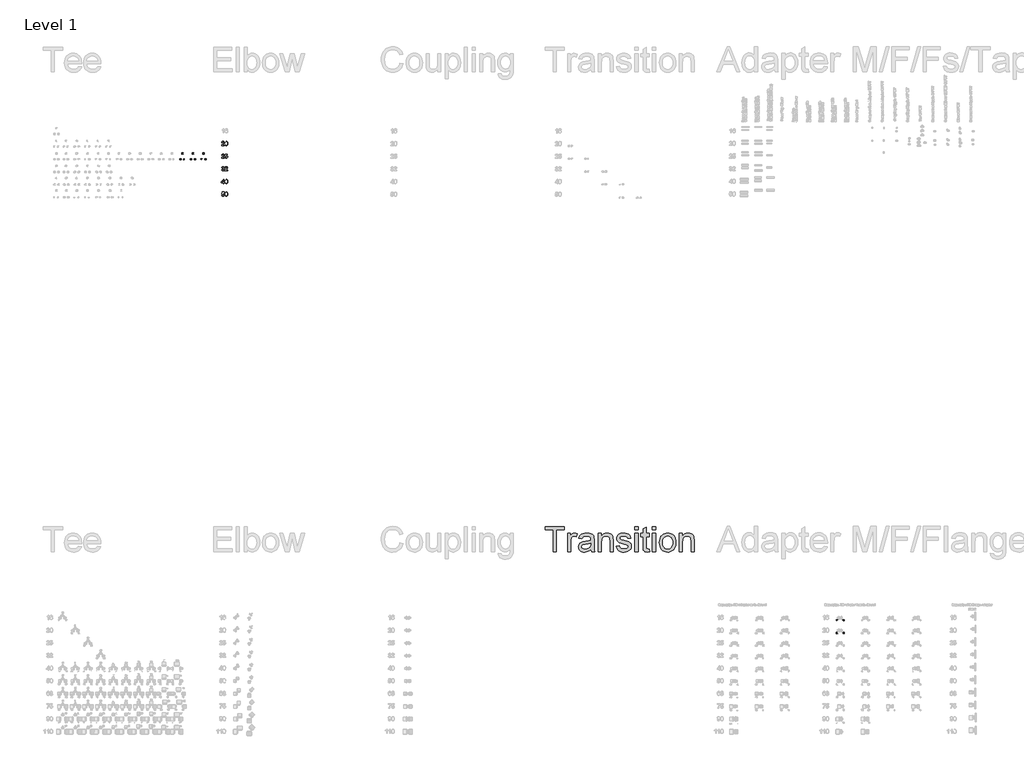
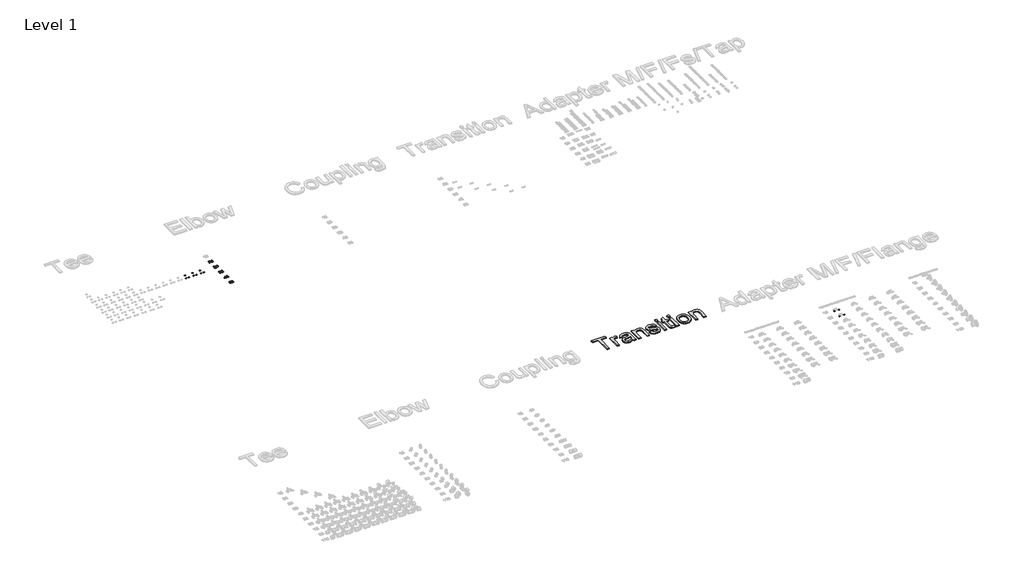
# One storey, part 38 of 58: 19 proxies.
"""IFC4 building model written with IfcOpenShell, lengths in millimetres."""

from ifc_helpers import new_model, si_unit, frame, origin, place, context, project, spatial, polyline, outline, extrude, element, save

model = new_model("IFC4")

# Units and contexts
model_context = context("Model", 3, world=origin())
ifc_project = project(units=[si_unit("LENGTHUNIT", "METRE", prefix="MILLI")], contexts=[model_context])

# Site, building, storey
site = spatial("IfcSite", under=ifc_project)
building = spatial("IfcBuilding", under=site)
storey = spatial("IfcBuildingStorey", under=building, Name="Level 1", Elevation=27.3876384)

# Proxies
placement = place(None, origin())
element("IfcBuildingElementProxy", 1, Name="100mm Arial", ObjectType="100mm Arial", at=placement, inside=storey, context=model_context, shape_type="SweptSolid", body=[
    extrude(outline(polyline([(17097.4706647, 29855.9118651), (17097.4706647, 29843.3548263), (17031.5462111, 29843.3548263), (17032.8951118, 29852.0123159), (17040.5225318, 29865.3419069), (17056.2433558, 29879.8977712), (17077.923868, 29900.817994), (17083.3439961, 29915.0427644), (17078.2304363, 29926.5574709), (17064.8763199, 29931.2540977), (17050.9581178, 29926.6678355), (17045.6728798, 29913.9881694), (17033.115841, 29915.5577992), (17036.1600645, 29927.7040364), (17042.7420865, 29936.5761239), (17052.5185506, 29942.0023833), (17065.1461, 29943.8111365), (17077.86562, 29941.8000482), (17087.6236899, 29935.7667835), (17093.8316986, 29926.7536746), (17095.9010348, 29915.8030539), (17093.6692174, 29903.89594), (17086.2502638, 29891.5841559), (17068.2608343, 29874.3795412), (17053.8153346, 29862.3007491), (17048.1499519, 29855.9118651), (17097.4706647, 29855.9118651)])), frame((0.0, 0.0, 27.3876384), z_axis=(0.0, 0.0, 1.0), x_axis=(1.0, 0.0, 0.0)), (0.0, 0.0, 1.0), 2.0),
    extrude(outline(polyline([(17110.0277034, 29892.773641), (17113.7187861, 29921.6769031), (17124.6816696, 29938.3419575), (17142.9899302, 29943.8111365), (17157.6561591, 29940.5737749), (17167.7851767, 29931.241835), (17173.6712886, 29916.3794024), (17175.952157, 29892.773641), (17172.2978625, 29863.9930062), (17161.3717672, 29847.2911637), (17153.1404076, 29843.1616883), (17142.9899302, 29841.7851965), (17129.9423821, 29844.1764294), (17120.0340937, 29851.3501283), (17112.529301, 29868.3401451), (17110.0277034, 29892.773641)]), holes=[polyline([(17122.5847422, 29892.7981665), (17124.0562702, 29873.045969), (17128.4708541, 29861.614036), (17135.0436791, 29856.1601854), (17142.9899302, 29854.3422352), (17150.9361813, 29856.1663168), (17157.5090063, 29861.6385615), (17161.9235902, 29873.0766258), (17163.3951182, 29892.7981665), (17161.9726412, 29912.1058398), (17157.70521, 29923.6266777), (17151.1446478, 29929.3472427), (17142.8427774, 29931.2540977), (17134.9823655, 29929.5741032), (17128.6670579, 29924.5341199), (17124.1053211, 29912.2959122), (17122.5847422, 29892.7981665)])]), frame((0.0, 0.0, 27.3876384), z_axis=(0.0, 0.0, 1.0), x_axis=(1.0, 0.0, 0.0)), (0.0, 0.0, 1.0), 2.0),
])
element("IfcBuildingElementProxy", 2, Name="100mm Arial", ObjectType="100mm Arial", at=placement, inside=storey, context=model_context, shape_type="SweptSolid", body=[
    extrude(outline(polyline([(17097.4706647, 29555.9118651), (17097.4706647, 29543.3548263), (17031.5462111, 29543.3548263), (17032.8951118, 29552.0123159), (17040.5225318, 29565.3419069), (17056.2433558, 29579.8977712), (17077.923868, 29600.817994), (17083.3439961, 29615.0427644), (17078.2304363, 29626.5574709), (17064.8763199, 29631.2540977), (17050.9581178, 29626.6678355), (17045.6728798, 29613.9881694), (17033.115841, 29615.5577992), (17036.1600645, 29627.7040364), (17042.7420865, 29636.5761239), (17052.5185506, 29642.0023833), (17065.1461, 29643.8111365), (17077.86562, 29641.8000482), (17087.6236899, 29635.7667835), (17093.8316986, 29626.7536746), (17095.9010348, 29615.8030539), (17093.6692174, 29603.89594), (17086.2502638, 29591.5841559), (17068.2608343, 29574.3795412), (17053.8153346, 29562.3007491), (17048.1499519, 29555.9118651), (17097.4706647, 29555.9118651)])), frame((0.0, 0.0, 27.3876384), z_axis=(0.0, 0.0, 1.0), x_axis=(1.0, 0.0, 0.0)), (0.0, 0.0, 1.0), 2.0),
    extrude(outline(polyline([(17110.0277034, 29570.0385337), (17122.5847422, 29571.6081635), (17128.9123125, 29558.67098), (17142.033437, 29554.3422352), (17151.0342832, 29555.8474857), (17157.7787864, 29560.3632372), (17161.9910353, 29567.3683235), (17163.3951182, 29576.3415785), (17158.1344057, 29591.2530621), (17151.5278582, 29595.3549463), (17142.2296408, 29596.7222411), (17131.2054436, 29594.5394746), (17124.1543721, 29588.8740918), (17111.5973333, 29590.4437217), (17122.5847422, 29642.2415066), (17171.2432674, 29642.2415066), (17171.2432674, 29629.6844678), (17132.7382853, 29629.6844678), (17127.3672082, 29602.0197418), (17136.3373975, 29607.4643953), (17145.7367824, 29609.2792798), (17157.4691524, 29607.0290683), (17167.2088282, 29600.2784337), (17173.7663248, 29589.9900006), (17175.952157, 29577.1263935), (17173.9839883, 29564.5693547), (17168.0794823, 29553.8272004), (17156.7732423, 29544.7956975), (17141.9843861, 29541.7851965), (17129.6511422, 29543.7196426), (17119.8256273, 29549.5229811), (17113.0903211, 29558.5207616), (17110.0277034, 29570.0385337)])), frame((0.0, 0.0, 27.3876384), z_axis=(0.0, 0.0, 1.0), x_axis=(1.0, 0.0, 0.0)), (0.0, 0.0, 1.0), 2.0),
])
element("IfcBuildingElementProxy", 3, Name="100mm Arial", ObjectType="100mm Arial", at=placement, inside=storey, context=model_context, shape_type="SweptSolid", body=[
    extrude(outline(polyline([(17033.115841, 29270.0385337), (17045.6728798, 29271.6081635), (17052.601324, 29258.3889372), (17065.563033, 29254.3422352), (17074.1714717, 29255.7340554), (17080.817873, 29259.9095161), (17086.4832558, 29273.6928282), (17080.866924, 29286.6790626), (17066.5931026, 29291.8171478), (17057.7884601, 29290.4437217), (17059.1864117, 29303.0007605), (17061.1975, 29302.8536077), (17075.4467959, 29306.4588512), (17080.1924736, 29311.0328507), (17081.7743662, 29317.544362), (17077.188104, 29327.3668113), (17065.3668292, 29331.2540977), (17053.3984017, 29327.3300231), (17047.2425096, 29315.5577992), (17034.6854708, 29317.1274291), (17038.3826849, 29328.4030122), (17044.9616412, 29336.8213786), (17053.9624874, 29342.063697), (17064.9253708, 29343.8111365), (17080.0698463, 29340.3653084), (17090.6648478, 29330.9475294), (17094.331405, 29318.280126), (17090.8487888, 29306.7041059), (17080.5480929, 29298.3899728), (17094.2333031, 29289.8060596), (17099.0402945, 29273.472099), (17096.6367988, 29261.2338913), (17089.4263117, 29251.0067718), (17078.543136, 29244.0905903), (17065.1215746, 29241.7851965), (17052.9814687, 29243.7533651), (17043.0977058, 29249.6578712), (17036.2244438, 29258.6893741), (17033.115841, 29270.0385337)])), frame((0.0, 0.0, 27.3876384), z_axis=(0.0, 0.0, 1.0), x_axis=(1.0, 0.0, 0.0)), (0.0, 0.0, 1.0), 2.0),
    extrude(outline(polyline([(17174.3825271, 29255.9118651), (17174.3825271, 29243.3548263), (17108.4580736, 29243.3548263), (17109.8069743, 29252.0123159), (17117.4343943, 29265.3419069), (17133.1552182, 29279.8977712), (17154.8357305, 29300.817994), (17160.2558585, 29315.0427644), (17155.1422988, 29326.5574709), (17141.7881824, 29331.2540977), (17127.8699802, 29326.6678355), (17122.5847422, 29313.9881694), (17110.0277034, 29315.5577992), (17113.071927, 29327.7040364), (17119.653949, 29336.5761239), (17129.430413, 29342.0023833), (17142.0579625, 29343.8111365), (17154.7774825, 29341.8000482), (17164.5355524, 29335.7667835), (17170.7435611, 29326.7536746), (17172.8128973, 29315.8030539), (17170.5810799, 29303.89594), (17163.1621263, 29291.5841559), (17145.1726967, 29274.3795412), (17130.727197, 29262.3007491), (17125.0618143, 29255.9118651), (17174.3825271, 29255.9118651)])), frame((0.0, 0.0, 27.3876384), z_axis=(0.0, 0.0, 1.0), x_axis=(1.0, 0.0, 0.0)), (0.0, 0.0, 1.0), 2.0),
])
element("IfcBuildingElementProxy", 4, Name="100mm Arial", ObjectType="100mm Arial", at=placement, inside=storey, context=model_context, shape_type="SweptSolid", body=[
    extrude(outline(polyline([(17073.926217, 28943.3548263), (17073.926217, 28966.899274), (17028.4069515, 28966.899274), (17028.4069515, 28979.4563128), (17077.0654767, 29042.2415066), (17086.4832558, 29042.2415066), (17086.4832558, 28979.4563128), (17099.0402945, 28979.4563128), (17099.0402945, 28966.899274), (17086.4832558, 28966.899274), (17086.4832558, 28943.3548263), (17073.926217, 28943.3548263)]), holes=[polyline([(17073.926217, 28979.4563128), (17073.926217, 29018.2556005), (17043.8579952, 28979.4563128), (17073.926217, 28979.4563128)])]), frame((0.0, 0.0, 27.3876384), z_axis=(0.0, 0.0, 1.0), x_axis=(1.0, 0.0, 0.0)), (0.0, 0.0, 1.0), 2.0),
    extrude(outline(polyline([(17110.0277034, 28992.773641), (17113.7187861, 29021.6769031), (17124.6816696, 29038.3419575), (17142.9899302, 29043.8111365), (17157.6561591, 29040.5737749), (17167.7851767, 29031.241835), (17173.6712886, 29016.3794024), (17175.952157, 28992.773641), (17172.2978625, 28963.9930062), (17161.3717672, 28947.2911637), (17153.1404076, 28943.1616883), (17142.9899302, 28941.7851965), (17129.9423821, 28944.1764294), (17120.0340937, 28951.3501283), (17112.529301, 28968.3401451), (17110.0277034, 28992.773641)]), holes=[polyline([(17122.5847422, 28992.7981665), (17124.0562702, 28973.045969), (17128.4708541, 28961.614036), (17135.0436791, 28956.1601854), (17142.9899302, 28954.3422352), (17150.9361813, 28956.1663168), (17157.5090063, 28961.6385615), (17161.9235902, 28973.0766258), (17163.3951182, 28992.7981665), (17161.9726412, 29012.1058398), (17157.70521, 29023.6266777), (17151.1446478, 29029.3472427), (17142.8427774, 29031.2540977), (17134.9823655, 29029.5741032), (17128.6670579, 29024.5341199), (17124.1053211, 29012.2959122), (17122.5847422, 28992.7981665)])]), frame((0.0, 0.0, 27.3876384), z_axis=(0.0, 0.0, 1.0), x_axis=(1.0, 0.0, 0.0)), (0.0, 0.0, 1.0), 2.0),
])
element("IfcBuildingElementProxy", 5, Name="100mm Arial", ObjectType="100mm Arial", at=placement, inside=storey, context=model_context, shape_type="SweptSolid", body=[
    extrude(outline(polyline([(17033.115841, 28670.0385337), (17045.6728798, 28671.6081635), (17052.0004501, 28658.67098), (17065.1215746, 28654.3422352), (17074.1224207, 28655.8474857), (17080.866924, 28660.3632372), (17085.0791728, 28667.3683235), (17086.4832558, 28676.3415785), (17081.2225432, 28691.2530621), (17074.6159957, 28695.3549463), (17065.3177783, 28696.7222411), (17054.2935812, 28694.5394746), (17047.2425096, 28688.8740918), (17034.6854708, 28690.4437217), (17045.6728798, 28742.2415066), (17094.331405, 28742.2415066), (17094.331405, 28729.6844678), (17055.8264228, 28729.6844678), (17050.4553457, 28702.0197418), (17059.425535, 28707.4643953), (17068.82492, 28709.2792798), (17080.55729, 28707.0290683), (17090.2969658, 28700.2784337), (17096.8544623, 28689.9900006), (17099.0402945, 28677.1263935), (17097.0721259, 28664.5693547), (17091.1676198, 28653.8272004), (17079.8613798, 28644.7956975), (17065.0725236, 28641.7851965), (17052.7392797, 28643.7196426), (17042.9137648, 28649.5229811), (17036.1784586, 28658.5207616), (17033.115841, 28670.0385337)])), frame((0.0, 0.0, 27.3876384), z_axis=(0.0, 0.0, 1.0), x_axis=(1.0, 0.0, 0.0)), (0.0, 0.0, 1.0), 2.0),
    extrude(outline(polyline([(17110.0277034, 28692.773641), (17113.7187861, 28721.6769031), (17124.6816696, 28738.3419575), (17142.9899302, 28743.8111365), (17157.6561591, 28740.5737749), (17167.7851767, 28731.241835), (17173.6712886, 28716.3794024), (17175.952157, 28692.773641), (17172.2978625, 28663.9930062), (17161.3717672, 28647.2911637), (17153.1404076, 28643.1616883), (17142.9899302, 28641.7851965), (17129.9423821, 28644.1764294), (17120.0340937, 28651.3501283), (17112.529301, 28668.3401451), (17110.0277034, 28692.773641)]), holes=[polyline([(17122.5847422, 28692.7981665), (17124.0562702, 28673.045969), (17128.4708541, 28661.614036), (17135.0436791, 28656.1601854), (17142.9899302, 28654.3422352), (17150.9361813, 28656.1663168), (17157.5090063, 28661.6385615), (17161.9235902, 28673.0766258), (17163.3951182, 28692.7981665), (17161.9726412, 28712.1058398), (17157.70521, 28723.6266777), (17151.1446478, 28729.3472427), (17142.8427774, 28731.2540977), (17134.9823655, 28729.5741032), (17128.6670579, 28724.5341199), (17124.1053211, 28712.2959122), (17122.5847422, 28692.7981665)])]), frame((0.0, 0.0, 27.3876384), z_axis=(0.0, 0.0, 1.0), x_axis=(1.0, 0.0, 0.0)), (0.0, 0.0, 1.0), 2.0),
])
element("IfcBuildingElementProxy", 6, Name="30mm Arial", ObjectType="30mm Arial", at=placement, inside=storey, context=model_context, shape_type="SweptSolid", body=[
    extrude(outline(polyline([(16054.2676338, 29506.8613171), (16054.2676338, 29503.0942054), (16034.4902977, 29503.0942054), (16034.8949679, 29505.6914523), (16037.1831939, 29509.6903296), (16041.8994411, 29514.0570889), (16048.4035948, 29520.3331557), (16050.0296332, 29524.6005869), (16048.4955653, 29528.0549988), (16044.4893303, 29529.4639869), (16040.3138697, 29528.0881082), (16038.7282983, 29524.2842084), (16034.9611867, 29524.7550973), (16037.8490603, 29531.0605947), (16044.5702644, 29533.2310985), (16051.3135413, 29530.8177926), (16053.7967448, 29524.8286737), (16053.1271996, 29521.2565395), (16050.9015135, 29517.5630043), (16045.5046846, 29512.4016199), (16041.1710347, 29508.7779823), (16039.4714199, 29506.8613171), (16054.2676338, 29506.8613171)])), frame((0.0, 0.0, 27.3876384), z_axis=(0.0, 0.0, 1.0), x_axis=(1.0, 0.0, 0.0)), (0.0, 0.0, 1.0), 2.0),
    extrude(outline(polyline([(16058.0347454, 29511.0993177), (16061.801857, 29511.5702066), (16063.7001281, 29507.6890516), (16067.6364655, 29506.3904281), (16072.3600703, 29508.1967287), (16074.0449698, 29512.9902311), (16072.4667561, 29517.4636762), (16067.6953266, 29519.1044299), (16064.3880675, 29518.4495999), (16062.272746, 29516.7499851), (16058.5056344, 29517.2208741), (16061.801857, 29532.7602095), (16076.3994146, 29532.7602095), (16076.3994146, 29528.9930979), (16064.8479199, 29528.9930979), (16063.2365968, 29520.6936801), (16068.7474691, 29522.8715415), (16075.1890828, 29520.1712877), (16077.8120815, 29513.2256756), (16075.450279, 29506.2359177), (16067.6217502, 29502.6233165), (16060.9741225, 29504.9446519), (16058.0347454, 29511.0993177)])), frame((0.0, 0.0, 27.3876384), z_axis=(0.0, 0.0, 1.0), x_axis=(1.0, 0.0, 0.0)), (0.0, 0.0, 1.0), 2.0),
])
element("IfcBuildingElementProxy", 7, Name="30mm Arial", ObjectType="30mm Arial", at=placement, inside=storey, context=model_context, shape_type="SweptSolid", body=[
    extrude(outline(polyline([(16148.0176338, 29506.8613171), (16148.0176338, 29503.0942054), (16128.2402977, 29503.0942054), (16128.6449679, 29505.6914523), (16130.9331939, 29509.6903296), (16135.6494411, 29514.0570889), (16142.1535948, 29520.3331557), (16143.7796332, 29524.6005869), (16142.2455653, 29528.0549988), (16138.2393303, 29529.4639869), (16134.0638697, 29528.0881082), (16132.4782983, 29524.2842084), (16128.7111867, 29524.7550973), (16131.5990603, 29531.0605947), (16138.3202644, 29533.2310985), (16145.0635413, 29530.8177926), (16147.5467448, 29524.8286737), (16146.8771996, 29521.2565395), (16144.6515135, 29517.5630043), (16139.2546846, 29512.4016199), (16134.9210347, 29508.7779823), (16133.2214199, 29506.8613171), (16148.0176338, 29506.8613171)])), frame((0.0, 0.0, 27.3876384), z_axis=(0.0, 0.0, 1.0), x_axis=(1.0, 0.0, 0.0)), (0.0, 0.0, 1.0), 2.0),
    extrude(outline(polyline([(16151.7847454, 29517.9198498), (16152.8920702, 29526.5908285), (16156.1809352, 29531.5903448), (16161.6734134, 29533.2310985), (16166.0732821, 29532.25989), (16169.1119874, 29529.460308), (16170.8778209, 29525.0015783), (16171.5620815, 29517.9198498), (16170.4657931, 29509.2856594), (16167.1879645, 29504.2751066), (16161.6734134, 29502.6233165), (16154.7866625, 29505.492796), (16151.7847454, 29517.9198498)]), holes=[polyline([(16155.551857, 29517.9272075), (16157.3176906, 29508.5719683), (16161.6734134, 29506.3904281), (16166.0291362, 29508.579326), (16167.7949698, 29517.9272075), (16166.0879974, 29527.1757608), (16161.6292676, 29529.4639869), (16157.3765517, 29527.4479935), (16155.551857, 29517.9272075)])]), frame((0.0, 0.0, 27.3876384), z_axis=(0.0, 0.0, 1.0), x_axis=(1.0, 0.0, 0.0)), (0.0, 0.0, 1.0), 2.0),
])
element("IfcBuildingElementProxy", 8, Name="30mm Arial", ObjectType="30mm Arial", at=placement, inside=storey, context=model_context, shape_type="SweptSolid", body=[
    extrude(outline(polyline([(16101.1958186, 29643.1799576), (16101.1958186, 29639.412846), (16081.4184825, 29639.412846), (16081.8231527, 29642.0100929), (16084.1113787, 29646.0089702), (16088.8276259, 29650.3757295), (16095.3317796, 29656.6517963), (16096.957818, 29660.9192274), (16095.4237501, 29664.3736394), (16091.4175151, 29665.7826274), (16087.2420545, 29664.4067488), (16085.6564831, 29660.6028489), (16081.8893715, 29661.0737379), (16084.7772451, 29667.3792353), (16091.4984492, 29669.549739), (16098.2417261, 29667.1364332), (16100.7249296, 29661.1473143), (16100.0553844, 29657.5751801), (16097.8296983, 29653.8816449), (16092.4328694, 29648.7202605), (16088.0992195, 29645.0966228), (16086.3996047, 29643.1799576), (16101.1958186, 29643.1799576)])), frame((0.0, 0.0, 27.3876384), z_axis=(0.0, 0.0, 1.0), x_axis=(1.0, 0.0, 0.0)), (0.0, 0.0, 1.0), 2.0),
    extrude(outline(polyline([(16104.9629302, 29654.2384904), (16106.070255, 29662.909469), (16109.35912, 29667.9089853), (16114.8515982, 29669.549739), (16119.2514669, 29668.5785306), (16122.2901722, 29665.7789486), (16124.0560058, 29661.3202188), (16124.7402663, 29654.2384904), (16123.6439779, 29645.6043), (16120.3661493, 29640.5937472), (16114.8515982, 29638.941957), (16107.9648473, 29641.8114366), (16104.9629302, 29654.2384904)]), holes=[polyline([(16108.7300418, 29654.245848), (16110.4958754, 29644.8906089), (16114.8515982, 29642.7090687), (16119.2073211, 29644.8979666), (16120.9731546, 29654.245848), (16119.2661822, 29663.4944014), (16114.8074524, 29665.7826274), (16110.5547365, 29663.7666341), (16108.7300418, 29654.245848)])]), frame((0.0, 0.0, 27.3876384), z_axis=(0.0, 0.0, 1.0), x_axis=(1.0, 0.0, 0.0)), (0.0, 0.0, 1.0), 2.0),
])
element("IfcBuildingElementProxy", 9, Name="30mm Arial", ObjectType="30mm Arial", at=placement, inside=storey, context=model_context, shape_type="SweptSolid", body=[
    extrude(outline(polyline([(16304.5477331, 29506.8613171), (16304.5477331, 29503.0942054), (16284.770397, 29503.0942054), (16285.1750672, 29505.6914523), (16287.4632932, 29509.6903296), (16292.1795404, 29514.0570889), (16298.6836941, 29520.3331557), (16300.3097325, 29524.6005869), (16298.7756646, 29528.0549988), (16294.7694296, 29529.4639869), (16290.593969, 29528.0881082), (16289.0083976, 29524.2842084), (16285.241286, 29524.7550973), (16288.1291596, 29531.0605947), (16294.8503637, 29533.2310985), (16301.5936407, 29530.8177926), (16304.0768441, 29524.8286737), (16303.4072989, 29521.2565395), (16301.1816128, 29517.5630043), (16295.784784, 29512.4016199), (16291.451134, 29508.7779823), (16289.7515192, 29506.8613171), (16304.5477331, 29506.8613171)])), frame((0.0, 0.0, 27.3876384), z_axis=(0.0, 0.0, 1.0), x_axis=(1.0, 0.0, 0.0)), (0.0, 0.0, 1.0), 2.0),
    extrude(outline(polyline([(16308.3148447, 29511.0993177), (16312.0819563, 29511.5702066), (16313.9802274, 29507.6890516), (16317.9165648, 29506.3904281), (16322.6401696, 29508.1967287), (16324.3250691, 29512.9902311), (16322.7468554, 29517.4636762), (16317.9754259, 29519.1044299), (16314.6681668, 29518.4495999), (16312.5528453, 29516.7499851), (16308.7857337, 29517.2208741), (16312.0819563, 29532.7602095), (16326.6795139, 29532.7602095), (16326.6795139, 29528.9930979), (16315.1280193, 29528.9930979), (16313.5166961, 29520.6936801), (16319.0275684, 29522.8715415), (16325.4691821, 29520.1712877), (16328.0921808, 29513.2256756), (16325.7303784, 29506.2359177), (16317.9018495, 29502.6233165), (16311.2542218, 29504.9446519), (16308.3148447, 29511.0993177)])), frame((0.0, 0.0, 27.3876384), z_axis=(0.0, 0.0, 1.0), x_axis=(1.0, 0.0, 0.0)), (0.0, 0.0, 1.0), 2.0),
])
element("IfcBuildingElementProxy", 10, Name="30mm Arial", ObjectType="30mm Arial", at=placement, inside=storey, context=model_context, shape_type="SweptSolid", body=[
    extrude(outline(polyline([(16398.2977331, 29506.8613171), (16398.2977331, 29503.0942054), (16378.520397, 29503.0942054), (16378.9250672, 29505.6914523), (16381.2132932, 29509.6903296), (16385.9295404, 29514.0570889), (16392.4336941, 29520.3331557), (16394.0597325, 29524.6005869), (16392.5256646, 29528.0549988), (16388.5194296, 29529.4639869), (16384.343969, 29528.0881082), (16382.7583976, 29524.2842084), (16378.991286, 29524.7550973), (16381.8791596, 29531.0605947), (16388.6003637, 29533.2310985), (16395.3436407, 29530.8177926), (16397.8268441, 29524.8286737), (16397.1572989, 29521.2565395), (16394.9316128, 29517.5630043), (16389.534784, 29512.4016199), (16385.201134, 29508.7779823), (16383.5015192, 29506.8613171), (16398.2977331, 29506.8613171)])), frame((0.0, 0.0, 27.3876384), z_axis=(0.0, 0.0, 1.0), x_axis=(1.0, 0.0, 0.0)), (0.0, 0.0, 1.0), 2.0),
    extrude(outline(polyline([(16402.0648447, 29511.0993177), (16405.8319563, 29511.5702066), (16407.7302274, 29507.6890516), (16411.6665648, 29506.3904281), (16416.3901696, 29508.1967287), (16418.0750691, 29512.9902311), (16416.4968554, 29517.4636762), (16411.7254259, 29519.1044299), (16408.4181668, 29518.4495999), (16406.3028453, 29516.7499851), (16402.5357337, 29517.2208741), (16405.8319563, 29532.7602095), (16420.4295139, 29532.7602095), (16420.4295139, 29528.9930979), (16408.8780193, 29528.9930979), (16407.2666961, 29520.6936801), (16412.7775684, 29522.8715415), (16419.2191821, 29520.1712877), (16421.8421808, 29513.2256756), (16419.4803784, 29506.2359177), (16411.6518495, 29502.6233165), (16405.0042218, 29504.9446519), (16402.0648447, 29511.0993177)])), frame((0.0, 0.0, 27.3876384), z_axis=(0.0, 0.0, 1.0), x_axis=(1.0, 0.0, 0.0)), (0.0, 0.0, 1.0), 2.0),
])
element("IfcBuildingElementProxy", 11, Name="30mm Arial", ObjectType="30mm Arial", at=placement, inside=storey, context=model_context, shape_type="SweptSolid", body=[
    extrude(outline(polyline([(16351.4759179, 29643.1799576), (16351.4759179, 29639.412846), (16331.6985818, 29639.412846), (16332.103252, 29642.0100929), (16334.391478, 29646.0089702), (16339.1077252, 29650.3757295), (16345.6118789, 29656.6517963), (16347.2379173, 29660.9192274), (16345.7038494, 29664.3736394), (16341.6976144, 29665.7826274), (16337.5221538, 29664.4067488), (16335.9365824, 29660.6028489), (16332.1694708, 29661.0737379), (16335.0573444, 29667.3792353), (16341.7785485, 29669.549739), (16348.5218255, 29667.1364332), (16351.0050289, 29661.1473143), (16350.3354837, 29657.5751801), (16348.1097976, 29653.8816449), (16342.7129688, 29648.7202605), (16338.3793189, 29645.0966228), (16336.679704, 29643.1799576), (16351.4759179, 29643.1799576)])), frame((0.0, 0.0, 27.3876384), z_axis=(0.0, 0.0, 1.0), x_axis=(1.0, 0.0, 0.0)), (0.0, 0.0, 1.0), 2.0),
    extrude(outline(polyline([(16355.2430295, 29654.2384904), (16356.3503543, 29662.909469), (16359.6392194, 29667.9089853), (16365.1316975, 29669.549739), (16369.5315662, 29668.5785306), (16372.5702715, 29665.7789486), (16374.3361051, 29661.3202188), (16375.0203656, 29654.2384904), (16373.9240772, 29645.6043), (16370.6462487, 29640.5937472), (16365.1316975, 29638.941957), (16358.2449466, 29641.8114366), (16355.2430295, 29654.2384904)]), holes=[polyline([(16359.0101411, 29654.245848), (16360.7759747, 29644.8906089), (16365.1316975, 29642.7090687), (16369.4874204, 29644.8979666), (16371.2532539, 29654.245848), (16369.5462815, 29663.4944014), (16365.0875517, 29665.7826274), (16360.8348358, 29663.7666341), (16359.0101411, 29654.245848)])]), frame((0.0, 0.0, 27.3876384), z_axis=(0.0, 0.0, 1.0), x_axis=(1.0, 0.0, 0.0)), (0.0, 0.0, 1.0), 2.0),
])
element("IfcBuildingElementProxy", 12, Name="30mm Arial", ObjectType="30mm Arial", at=placement, inside=storey, context=model_context, shape_type="SweptSolid", body=[
    extrude(outline(polyline([(16549.6480539, 29503.0942054), (16545.8809423, 29503.0942054), (16545.8809423, 29526.579792), (16542.3124869, 29524.0377274), (16538.346719, 29522.1357775), (16538.346719, 29525.6968752), (16543.8686278, 29529.2211847), (16547.2200327, 29533.2310985), (16549.6480539, 29533.2310985), (16549.6480539, 29503.0942054)])), frame((0.0, 0.0, 27.3876384), z_axis=(0.0, 0.0, 1.0), x_axis=(1.0, 0.0, 0.0)), (0.0, 0.0, 1.0), 2.0),
    extrude(outline(polyline([(16577.9013911, 29525.2259863), (16574.1342795, 29524.7550973), (16572.7068974, 29527.8968096), (16568.9324281, 29529.4639869), (16565.5331984, 29528.5516395), (16562.9617033, 29525.1266581), (16561.8911667, 29518.4128117), (16565.2131411, 29521.4184076), (16569.3297406, 29522.4006525), (16575.7308874, 29519.715114), (16578.3722801, 29512.7768596), (16577.1288389, 29507.578687), (16573.7075364, 29503.899867), (16568.77056, 29502.6233165), (16561.0928628, 29506.0078308), (16558.1240551, 29517.1620129), (16561.4202777, 29529.7950807), (16569.1678726, 29533.2310985), (16575.1202032, 29531.1047406), (16577.9013911, 29525.2259863)]), holes=[polyline([(16561.8911667, 29512.8357207), (16562.763047, 29509.5726074), (16565.0807036, 29507.2034473), (16568.4762544, 29506.3904281), (16572.9165901, 29508.0753277), (16574.6051684, 29512.6517797), (16572.938663, 29517.0332542), (16568.321744, 29518.6335409), (16563.7636861, 29517.0332542), (16561.8911667, 29512.8357207)])]), frame((0.0, 0.0, 27.3876384), z_axis=(0.0, 0.0, 1.0), x_axis=(1.0, 0.0, 0.0)), (0.0, 0.0, 1.0), 2.0),
])
element("IfcBuildingElementProxy", 13, Name="30mm Arial", ObjectType="30mm Arial", at=placement, inside=storey, context=model_context, shape_type="SweptSolid", body=[
    extrude(outline(polyline([(16648.5778324, 29506.8613171), (16648.5778324, 29503.0942054), (16628.8004963, 29503.0942054), (16629.2051665, 29505.6914523), (16631.4933925, 29509.6903296), (16636.2096397, 29514.0570889), (16642.7137934, 29520.3331557), (16644.3398318, 29524.6005869), (16642.8057639, 29528.0549988), (16638.799529, 29529.4639869), (16634.6240683, 29528.0881082), (16633.0384969, 29524.2842084), (16629.2713853, 29524.7550973), (16632.1592589, 29531.0605947), (16638.880463, 29533.2310985), (16645.62374, 29530.8177926), (16648.1069434, 29524.8286737), (16647.4373982, 29521.2565395), (16645.2117121, 29517.5630043), (16639.8148833, 29512.4016199), (16635.4812334, 29508.7779823), (16633.7816185, 29506.8613171), (16648.5778324, 29506.8613171)])), frame((0.0, 0.0, 27.3876384), z_axis=(0.0, 0.0, 1.0), x_axis=(1.0, 0.0, 0.0)), (0.0, 0.0, 1.0), 2.0),
    extrude(outline(polyline([(16652.344944, 29511.0993177), (16656.1120556, 29511.5702066), (16658.0103267, 29507.6890516), (16661.9466641, 29506.3904281), (16666.6702689, 29508.1967287), (16668.3551684, 29512.9902311), (16666.7769547, 29517.4636762), (16662.0055252, 29519.1044299), (16658.6982661, 29518.4495999), (16656.5829446, 29516.7499851), (16652.815833, 29517.2208741), (16656.1120556, 29532.7602095), (16670.7096132, 29532.7602095), (16670.7096132, 29528.9930979), (16659.1581186, 29528.9930979), (16657.5467954, 29520.6936801), (16663.0576677, 29522.8715415), (16669.4992815, 29520.1712877), (16672.1222801, 29513.2256756), (16669.7604777, 29506.2359177), (16661.9319488, 29502.6233165), (16655.2843212, 29504.9446519), (16652.344944, 29511.0993177)])), frame((0.0, 0.0, 27.3876384), z_axis=(0.0, 0.0, 1.0), x_axis=(1.0, 0.0, 0.0)), (0.0, 0.0, 1.0), 2.0),
])
element("IfcBuildingElementProxy", 14, Name="30mm Arial", ObjectType="30mm Arial", at=placement, inside=storey, context=model_context, shape_type="SweptSolid", body=[
    extrude(outline(polyline([(16601.7560172, 29643.1799576), (16601.7560172, 29639.412846), (16581.9786811, 29639.412846), (16582.3833513, 29642.0100929), (16584.6715773, 29646.0089702), (16589.3878245, 29650.3757295), (16595.8919782, 29656.6517963), (16597.5180166, 29660.9192274), (16595.9839487, 29664.3736394), (16591.9777138, 29665.7826274), (16587.8022531, 29664.4067488), (16586.2166817, 29660.6028489), (16582.4495701, 29661.0737379), (16585.3374437, 29667.3792353), (16592.0586478, 29669.549739), (16598.8019248, 29667.1364332), (16601.2851282, 29661.1473143), (16600.615583, 29657.5751801), (16598.3898969, 29653.8816449), (16592.9930681, 29648.7202605), (16588.6594182, 29645.0966228), (16586.9598033, 29643.1799576), (16601.7560172, 29643.1799576)])), frame((0.0, 0.0, 27.3876384), z_axis=(0.0, 0.0, 1.0), x_axis=(1.0, 0.0, 0.0)), (0.0, 0.0, 1.0), 2.0),
    extrude(outline(polyline([(16605.5231288, 29647.4179582), (16609.2902405, 29647.8888472), (16611.1885115, 29644.0076921), (16615.1248489, 29642.7090687), (16619.8484537, 29644.5153693), (16621.5333533, 29649.3088717), (16619.9551395, 29653.7823167), (16615.18371, 29655.4230704), (16611.8764509, 29654.7682405), (16609.7611294, 29653.0686257), (16605.9940178, 29653.5395146), (16609.2902405, 29669.0788501), (16623.887798, 29669.0788501), (16623.887798, 29665.3117385), (16612.3363034, 29665.3117385), (16610.7249802, 29657.0123207), (16616.2358525, 29659.1901821), (16622.6774663, 29656.4899282), (16625.3004649, 29649.5443161), (16622.9386625, 29642.5545582), (16615.1101336, 29638.941957), (16608.462506, 29641.2632924), (16605.5231288, 29647.4179582)])), frame((0.0, 0.0, 27.3876384), z_axis=(0.0, 0.0, 1.0), x_axis=(1.0, 0.0, 0.0)), (0.0, 0.0, 1.0), 2.0),
])
element("IfcBuildingElementProxy", 15, Name="30mm Arial", ObjectType="30mm Arial", at=placement, inside=storey, context=model_context, shape_type="SweptSolid", body=[
    extrude(outline(polyline([(31616.6620986, 18573.5788539), (31612.894987, 18573.5788539), (31612.894987, 18597.0644405), (31609.3265317, 18594.5223759), (31605.3607637, 18592.620426), (31605.3607637, 18596.1815237), (31610.8826725, 18599.7058332), (31614.2340775, 18603.715747), (31616.6620986, 18603.715747), (31616.6620986, 18573.5788539)])), frame((0.0, 0.0, 27.3876384), z_axis=(0.0, 0.0, 1.0), x_axis=(1.0, 0.0, 0.0)), (0.0, 0.0, 1.0), 2.0),
    extrude(outline(polyline([(31644.9154359, 18595.7106348), (31641.1483242, 18595.2397458), (31639.7209421, 18598.381458), (31635.9464728, 18599.9486353), (31632.5472432, 18599.036288), (31629.975748, 18595.6113066), (31628.9052114, 18588.8974602), (31632.2271859, 18591.9030561), (31636.3437854, 18592.885301), (31642.7449321, 18590.1997625), (31645.3863248, 18583.261508), (31644.1428837, 18578.0633355), (31640.7215811, 18574.3845155), (31635.7846047, 18573.107965), (31628.1069075, 18576.4924793), (31625.1380998, 18587.6466614), (31628.4343225, 18600.2797291), (31636.1819173, 18603.715747), (31642.134248, 18601.589389), (31644.9154359, 18595.7106348)]), holes=[polyline([(31628.9052114, 18583.3203692), (31629.7770918, 18580.0572559), (31632.0947483, 18577.6880958), (31635.4902992, 18576.8750766), (31639.9306348, 18578.5599761), (31641.6192132, 18583.1364282), (31639.9527078, 18587.5179027), (31635.3357887, 18589.1181894), (31630.7777308, 18587.5179027), (31628.9052114, 18583.3203692)])]), frame((0.0, 0.0, 27.3876384), z_axis=(0.0, 0.0, 1.0), x_axis=(1.0, 0.0, 0.0)), (0.0, 0.0, 1.0), 2.0),
])
element("IfcBuildingElementProxy", 16, Name="30mm Arial", ObjectType="30mm Arial", at=placement, inside=storey, context=model_context, shape_type="SweptSolid", body=[
    extrude(outline(polyline([(31770.4120986, 18573.5788539), (31766.644987, 18573.5788539), (31766.644987, 18597.0644405), (31763.0765317, 18594.5223759), (31759.1107637, 18592.620426), (31759.1107637, 18596.1815237), (31764.6326725, 18599.7058332), (31767.9840775, 18603.715747), (31770.4120986, 18603.715747), (31770.4120986, 18573.5788539)])), frame((0.0, 0.0, 27.3876384), z_axis=(0.0, 0.0, 1.0), x_axis=(1.0, 0.0, 0.0)), (0.0, 0.0, 1.0), 2.0),
    extrude(outline(polyline([(31779.3589888, 18581.5839661), (31783.1261004, 18582.0548551), (31785.0243715, 18578.1737001), (31788.9607088, 18576.8750766), (31793.6843137, 18578.6813772), (31795.3692132, 18583.4748796), (31793.7909994, 18587.9483247), (31789.01957, 18589.5890784), (31785.7123108, 18588.9342484), (31783.5969893, 18587.2346336), (31779.8298777, 18587.7055225), (31783.1261004, 18603.244858), (31797.723658, 18603.244858), (31797.723658, 18599.4777464), (31786.1721633, 18599.4777464), (31784.5608402, 18591.1783286), (31790.0717125, 18593.35619), (31796.5133262, 18590.6559361), (31799.1363248, 18583.7103241), (31796.7745224, 18576.7205662), (31788.9459936, 18573.107965), (31782.2983659, 18575.4293004), (31779.3589888, 18581.5839661)])), frame((0.0, 0.0, 27.3876384), z_axis=(0.0, 0.0, 1.0), x_axis=(1.0, 0.0, 0.0)), (0.0, 0.0, 1.0), 2.0),
])
element("IfcBuildingElementProxy", 17, Name="30mm Arial", ObjectType="30mm Arial", at=placement, inside=storey, context=model_context, shape_type="SweptSolid", body=[
    extrude(outline(polyline([(31621.8418771, 18277.3459656), (31621.8418771, 18273.5788539), (31602.0645411, 18273.5788539), (31602.4692113, 18276.1761008), (31604.7574373, 18280.1749781), (31609.4736845, 18284.5417374), (31615.9778381, 18290.8178042), (31617.6038765, 18295.0852354), (31616.0698086, 18298.5396473), (31612.0635737, 18299.9486353), (31607.8881131, 18298.5727567), (31606.3025417, 18294.7688569), (31602.53543, 18295.2397458), (31605.4233037, 18301.5452432), (31612.1445077, 18303.715747), (31618.8877847, 18301.3024411), (31621.3709882, 18295.3133222), (31620.7014429, 18291.741188), (31618.4757569, 18288.0476528), (31613.078928, 18282.8862684), (31608.7452781, 18279.2626308), (31607.0456633, 18277.3459656), (31621.8418771, 18277.3459656)])), frame((0.0, 0.0, 27.3876384), z_axis=(0.0, 0.0, 1.0), x_axis=(1.0, 0.0, 0.0)), (0.0, 0.0, 1.0), 2.0),
    extrude(outline(polyline([(31625.6089888, 18288.4044983), (31626.7163136, 18297.075477), (31630.0051786, 18302.0749933), (31635.4976568, 18303.715747), (31639.8975255, 18302.7445385), (31642.9362307, 18299.9449565), (31644.7020643, 18295.4862267), (31645.3863248, 18288.4044983), (31644.2900365, 18279.7703079), (31641.0122079, 18274.7597551), (31635.4976568, 18273.107965), (31628.6109058, 18275.9774445), (31625.6089888, 18288.4044983)]), holes=[polyline([(31629.3761004, 18288.411856), (31631.141934, 18279.0566168), (31635.4976568, 18276.8750766), (31639.8533796, 18279.0639745), (31641.6192132, 18288.411856), (31639.9122407, 18297.6604093), (31635.453511, 18299.9486353), (31631.2007951, 18297.932642), (31629.3761004, 18288.411856)])]), frame((0.0, 0.0, 27.3876384), z_axis=(0.0, 0.0, 1.0), x_axis=(1.0, 0.0, 0.0)), (0.0, 0.0, 1.0), 2.0),
])
element("IfcBuildingElementProxy", 18, Name="30mm Arial", ObjectType="30mm Arial", at=placement, inside=storey, context=model_context, shape_type="SweptSolid", body=[
    extrude(outline(polyline([(31770.4120986, 18273.5788539), (31766.644987, 18273.5788539), (31766.644987, 18297.0644405), (31763.0765317, 18294.5223759), (31759.1107637, 18292.620426), (31759.1107637, 18296.1815237), (31764.6326725, 18299.7058332), (31767.9840775, 18303.715747), (31770.4120986, 18303.715747), (31770.4120986, 18273.5788539)])), frame((0.0, 0.0, 27.3876384), z_axis=(0.0, 0.0, 1.0), x_axis=(1.0, 0.0, 0.0)), (0.0, 0.0, 1.0), 2.0),
    extrude(outline(polyline([(31779.3589888, 18281.5839661), (31783.1261004, 18282.0548551), (31785.0243715, 18278.1737001), (31788.9607088, 18276.8750766), (31793.6843137, 18278.6813772), (31795.3692132, 18283.4748796), (31793.7909994, 18287.9483247), (31789.01957, 18289.5890784), (31785.7123108, 18288.9342484), (31783.5969893, 18287.2346336), (31779.8298777, 18287.7055225), (31783.1261004, 18303.244858), (31797.723658, 18303.244858), (31797.723658, 18299.4777464), (31786.1721633, 18299.4777464), (31784.5608402, 18291.1783286), (31790.0717125, 18293.35619), (31796.5133262, 18290.6559361), (31799.1363248, 18283.7103241), (31796.7745224, 18276.7205662), (31788.9459936, 18273.107965), (31782.2983659, 18275.4293004), (31779.3589888, 18281.5839661)])), frame((0.0, 0.0, 27.3876384), z_axis=(0.0, 0.0, 1.0), x_axis=(1.0, 0.0, 0.0)), (0.0, 0.0, 1.0), 2.0),
])
element("IfcBuildingElementProxy", 19, Name="600mm Arial", ObjectType="600mm Arial", at=placement, inside=storey, context=model_context, shape_type="SweptSolid", body=[
    extrude(outline(polyline([(24893.1260296, 20213.7679008), (24893.1260296, 20730.6909777), (24699.2798757, 20730.6909777), (24699.2798757, 20804.5371316), (25160.8183372, 20804.5371316), (25160.8183372, 20730.6909777), (24966.9721834, 20730.6909777), (24966.9721834, 20213.7679008), (24893.1260296, 20213.7679008)])), frame((0.0, 0.0, 27.3876384), z_axis=(0.0, 0.0, 1.0), x_axis=(1.0, 0.0, 0.0)), (0.0, 0.0, 1.0), 30.0),
    extrude(outline(polyline([(25234.6644911, 20213.7679008), (25234.6644911, 20647.6140547), (25299.2798757, 20647.6140547), (25299.2798757, 20583.4313623), (25323.150068, 20620.6429008), (25345.1452603, 20642.5659777), (25367.212568, 20653.2751123), (25391.2991065, 20656.8448239), (25428.0779526, 20651.1477085), (25465.4337219, 20634.0563623), (25440.7702603, 20567.8544393), (25414.8087219, 20579.2126123), (25388.8471834, 20582.99867), (25366.7979046, 20579.3568431), (25347.0923757, 20568.4313623), (25331.1729046, 20551.0515547), (25320.4817988, 20528.046747), (25311.5034334, 20486.796747), (25308.5106449, 20441.796747), (25308.5106449, 20213.7679008), (25234.6644911, 20213.7679008)])), frame((0.0, 0.0, 27.3876384), z_axis=(0.0, 0.0, 1.0), x_axis=(1.0, 0.0, 0.0)), (0.0, 0.0, 1.0), 30.0),
    extrude(outline(polyline([(25788.5106449, 20269.1525162), (25753.228193, 20238.9001123), (25716.900068, 20219.1044393), (25678.696943, 20208.1789585), (25637.7894911, 20204.5371316), (25604.9093829, 20206.7276364), (25576.0767507, 20213.2991508), (25551.2915945, 20224.2516748), (25530.5539142, 20239.5852085), (25514.1792147, 20258.3261941), (25502.4830007, 20279.5010739), (25495.4652723, 20303.1098479), (25493.1260296, 20329.1525162), (25496.6596834, 20359.765497), (25507.2606449, 20387.5659777), (25523.6128084, 20411.3640547), (25544.400068, 20429.9698239), (25568.8291546, 20444.0323239), (25596.1067988, 20454.2005931), (25660.0010296, 20465.3063623), (25735.5058372, 20476.9890547), (25788.0779526, 20490.6909777), (25788.5106449, 20507.1332854), (25783.4265103, 20540.0900162), (25777.0713421, 20552.295545), (25768.1741065, 20561.6525162), (25752.7955007, 20570.9914585), (25734.0635296, 20577.6621316), (25686.5394911, 20582.99867), (25642.5491065, 20579.4469873), (25611.8279526, 20568.7919393), (25590.8784334, 20549.0864104), (25576.2029526, 20518.3832854), (25502.3567988, 20527.6140547), (25515.1753084, 20567.99867), (25534.3039142, 20599.7294393), (25561.5274719, 20623.9962662), (25598.6308372, 20641.9890547), (25644.009443, 20653.1308816), (25696.0587219, 20656.8448239), (25745.9805969, 20653.5635739), (25785.5539142, 20643.7198239), (25815.3916546, 20628.9181412), (25836.1067988, 20610.7630931), (25849.8447796, 20588.3171797), (25858.7510296, 20560.6429008), (25862.3567988, 20496.0275162), (25862.3567988, 20404.1525162), (25866.1067988, 20275.859247), (25871.6596834, 20244.1465066), (25880.8183372, 20213.7679008), (25806.9721834, 20213.7679008), (25795.1452603, 20239.4409777), (25788.5106449, 20269.1525162)]), holes=[polyline([(25788.5106449, 20416.8448239), (25738.8952603, 20404.5491508), (25669.3760296, 20394.2005931), (25605.8423757, 20382.2294393), (25589.3099238, 20374.0443431), (25577.0683372, 20362.7582854), (25569.4962219, 20349.2366508), (25566.9721834, 20334.3448239), (25572.4709815, 20312.3856893), (25588.9673757, 20294.3929008), (25616.1007892, 20282.3856893), (25653.5106449, 20278.3832854), (25693.1741065, 20282.8003527), (25728.2221834, 20296.0515547), (25756.6356449, 20315.576795), (25776.3952603, 20338.8159777), (25785.1572796, 20362.7582854), (25788.0779526, 20395.9313623), (25788.5106449, 20416.8448239)])]), frame((0.0, 0.0, 27.3876384), z_axis=(0.0, 0.0, 1.0), x_axis=(1.0, 0.0, 0.0)), (0.0, 0.0, 1.0), 30.0),
    extrude(outline(polyline([(25963.8952603, 20213.7679008), (25963.8952603, 20647.6140547), (26037.7414142, 20647.6140547), (26037.7414142, 20587.0371316), (26063.3964622, 20617.577997), (26094.2077603, 20639.3929008), (26130.1753084, 20652.4818431), (26171.2991065, 20656.8448239), (26207.6993469, 20653.3291989), (26241.0346834, 20642.7823239), (26268.8351642, 20626.5203047), (26288.6308372, 20605.859247), (26302.0623276, 20580.8532373), (26310.7702603, 20551.5563623), (26314.6644911, 20480.1621316), (26314.6644911, 20213.7679008), (26240.8183372, 20213.7679008), (26240.8183372, 20470.2102085), (26238.6909334, 20508.3953047), (26232.3087219, 20535.546747), (26220.5358853, 20554.999872), (26202.2366065, 20570.0900162), (26178.7810776, 20579.7715066), (26151.5394911, 20582.99867), (26129.1161137, 20581.186771), (26108.2882892, 20575.7510739), (26089.0560175, 20566.6915787), (26071.4192988, 20554.0082854), (26056.6852243, 20536.2588864), (26046.1608853, 20512.0010739), (26039.846282, 20481.2348479), (26037.7414142, 20443.9602085), (26037.7414142, 20213.7679008), (25963.8952603, 20213.7679008)])), frame((0.0, 0.0, 27.3876384), z_axis=(0.0, 0.0, 1.0), x_axis=(1.0, 0.0, 0.0)), (0.0, 0.0, 1.0), 30.0),
    extrude(outline(polyline([(26388.5106449, 20342.99867), (26462.3567988, 20352.2294393), (26466.8189382, 20335.390497), (26474.0034334, 20320.6429008), (26483.9102844, 20307.9866508), (26496.5394911, 20297.421747), (26511.9271113, 20289.09242), (26530.1092026, 20283.1429008), (26574.8567988, 20278.3832854), (26619.0635296, 20282.7462662), (26636.2450199, 20288.1999922), (26650.1452603, 20295.8352085), (26668.5346834, 20314.8015547), (26674.6644911, 20336.796747), (26673.1230247, 20346.7666989), (26668.4986257, 20355.6188623), (26650.0010296, 20369.9698239), (26622.3447796, 20379.3448239), (26573.9914142, 20391.0275162), (26506.5995872, 20410.5166989), (26462.7894911, 20427.1573239), (26434.6464622, 20445.312372), (26414.2558372, 20469.3448239), (26401.8700199, 20497.7222277), (26397.7414142, 20528.9121316), (26401.0587219, 20557.5239104), (26411.0106449, 20583.93617), (26426.6957411, 20607.1032373), (26447.212568, 20625.9794393), (26467.603193, 20637.8604489), (26494.1596834, 20647.8304008), (26524.8628084, 20654.5912181), (26557.6933372, 20656.8448239), (26605.7582411, 20653.2210258), (26647.5491065, 20642.3496316), (26681.1548757, 20625.2943431), (26704.6644911, 20603.1188623), (26720.2414142, 20574.1825643), (26730.0491065, 20536.8448239), (26656.2029526, 20527.6140547), (26646.8820392, 20550.8532373), (26628.4385296, 20568.359247), (26600.6921353, 20579.3388143), (26563.462568, 20582.99867), (26521.0587219, 20579.5010739), (26492.7894911, 20569.0082854), (26476.8880488, 20553.8640547), (26471.587568, 20536.4121316), (26473.7870872, 20525.0539585), (26480.3856449, 20514.921747), (26491.6717026, 20505.8712662), (26507.9337219, 20498.62367), (26571.5394911, 20482.9025162), (26679.9289142, 20448.1429008), (26708.5587219, 20431.5203047), (26730.2654526, 20408.7679008), (26743.9493469, 20379.8135739), (26748.5106449, 20344.5852085), (26743.1560776, 20308.1669393), (26727.0923757, 20273.9121316), (26700.9325199, 20244.5070835), (26665.2894911, 20222.6380931), (26622.2366065, 20209.062372), (26573.8471834, 20204.5371316), (26534.1025921, 20206.718622), (26499.3880488, 20213.2630931), (26469.7035536, 20224.170545), (26445.0491065, 20239.4409777), (26424.9108853, 20259.0022758), (26408.775068, 20282.7823239), (26396.6416546, 20310.781122), (26388.5106449, 20342.99867)])), frame((0.0, 0.0, 27.3876384), z_axis=(0.0, 0.0, 1.0), x_axis=(1.0, 0.0, 0.0)), (0.0, 0.0, 1.0), 30.0),
    extrude(outline(polyline([(26831.587568, 20213.7679008), (26831.587568, 20647.6140547), (26905.4337219, 20647.6140547), (26905.4337219, 20213.7679008), (26831.587568, 20213.7679008)])), frame((0.0, 0.0, 27.3876384), z_axis=(0.0, 0.0, 1.0), x_axis=(1.0, 0.0, 0.0)), (0.0, 0.0, 1.0), 30.0),
    extrude(outline(polyline([(26831.587568, 20730.6909777), (26831.587568, 20804.5371316), (26905.4337219, 20804.5371316), (26905.4337219, 20730.6909777), (26831.587568, 20730.6909777)])), frame((0.0, 0.0, 27.3876384), z_axis=(0.0, 0.0, 1.0), x_axis=(1.0, 0.0, 0.0)), (0.0, 0.0, 1.0), 30.0),
    extrude(outline(polyline([(27173.1260296, 20275.3544393), (27182.3567988, 20211.6044393), (27127.1164142, 20204.5371316), (27091.6717026, 20207.6020354), (27065.2414142, 20216.796747), (27046.5635296, 20230.96742), (27034.3760296, 20248.9602085), (27027.6692988, 20279.8616508), (27025.4337219, 20332.7582854), (27025.4337219, 20573.7679008), (26970.0491065, 20573.7679008), (26970.0491065, 20647.6140547), (27025.4337219, 20647.6140547), (27025.4337219, 20753.046747), (27099.2798757, 20796.4602085), (27099.2798757, 20647.6140547), (27173.1260296, 20647.6140547), (27173.1260296, 20573.7679008), (27099.2798757, 20573.7679008), (27099.2798757, 20334.921747), (27103.1741065, 20296.8448239), (27115.7942988, 20283.359247), (27126.4493469, 20279.6272758), (27140.962568, 20278.3832854), (27173.1260296, 20275.3544393)])), frame((0.0, 0.0, 27.3876384), z_axis=(0.0, 0.0, 1.0), x_axis=(1.0, 0.0, 0.0)), (0.0, 0.0, 1.0), 30.0),
    extrude(outline(polyline([(27246.9721834, 20213.7679008), (27246.9721834, 20647.6140547), (27320.8183372, 20647.6140547), (27320.8183372, 20213.7679008), (27246.9721834, 20213.7679008)])), frame((0.0, 0.0, 27.3876384), z_axis=(0.0, 0.0, 1.0), x_axis=(1.0, 0.0, 0.0)), (0.0, 0.0, 1.0), 30.0),
    extrude(outline(polyline([(27246.9721834, 20730.6909777), (27246.9721834, 20804.5371316), (27320.8183372, 20804.5371316), (27320.8183372, 20730.6909777), (27246.9721834, 20730.6909777)])), frame((0.0, 0.0, 27.3876384), z_axis=(0.0, 0.0, 1.0), x_axis=(1.0, 0.0, 0.0)), (0.0, 0.0, 1.0), 30.0),
    extrude(outline(polyline([(27413.1260296, 20430.6909777), (27417.119419, 20486.8778768), (27429.0995872, 20535.2943431), (27449.0665344, 20575.9403768), (27477.0202603, 20608.8159777), (27505.1632892, 20629.8285979), (27536.2269911, 20644.8376123), (27570.2113661, 20653.843021), (27607.1164142, 20656.8448239), (27647.8570993, 20653.1894753), (27684.6945392, 20642.2234297), (27717.6287339, 20623.9466869), (27746.6596834, 20598.359247), (27770.3540945, 20566.3264946), (27787.2786738, 20528.7138143), (27797.4334214, 20485.5212061), (27800.8183372, 20436.74867), (27799.321943, 20397.2204248), (27794.8327603, 20362.1453047), (27787.3507892, 20331.5233095), (27776.8760296, 20305.3544393), (27763.5391906, 20282.7507734), (27747.4709815, 20262.8243912), (27728.6714022, 20245.5752926), (27707.1404526, 20231.0034777), (27683.7164743, 20219.4244513), (27659.2378084, 20211.1537181), (27633.704455, 20206.1912782), (27607.1164142, 20204.5371316), (27565.7807772, 20208.1789585), (27528.6007892, 20219.1044393), (27495.5764502, 20237.3135739), (27466.7077603, 20262.8063623), (27443.2657531, 20295.1501123), (27426.5214622, 20333.9121316), (27416.4748877, 20379.09242), (27413.1260296, 20430.6909777)]), holes=[polyline([(27486.9721834, 20430.8352085), (27489.1086017, 20395.0163984), (27495.5178565, 20364.0022758), (27506.1999478, 20337.7928407), (27521.1548757, 20316.3880931), (27539.3459815, 20299.7609897), (27559.7366065, 20287.8844873), (27582.3267507, 20280.7585859), (27607.1164142, 20278.3832854), (27631.7798757, 20280.7721075), (27654.2798757, 20287.9385739), (27674.6164142, 20299.8826845), (27692.7894911, 20316.6044393), (27707.744419, 20338.2210258), (27718.4265103, 20364.8496316), (27724.8357651, 20396.4902566), (27726.9721834, 20433.1429008), (27724.8222435, 20467.8258936), (27718.3724238, 20498.0287181), (27707.6227243, 20523.7513744), (27692.5731449, 20544.9938623), (27674.3324598, 20561.6209657), (27654.009443, 20573.4974681), (27631.6040945, 20580.6233696), (27607.1164142, 20582.99867), (27582.3267507, 20580.632384), (27559.7366065, 20573.5335258), (27539.3459815, 20561.7020955), (27521.1548757, 20545.1380931), (27506.1999478, 20523.7964465), (27495.5178565, 20497.6320835), (27489.1086017, 20466.6450042), (27486.9721834, 20430.8352085)])]), frame((0.0, 0.0, 27.3876384), z_axis=(0.0, 0.0, 1.0), x_axis=(1.0, 0.0, 0.0)), (0.0, 0.0, 1.0), 30.0),
    extrude(outline(polyline([(27883.8952603, 20213.7679008), (27883.8952603, 20647.6140547), (27957.7414142, 20647.6140547), (27957.7414142, 20587.0371316), (27983.3964622, 20617.577997), (28014.2077603, 20639.3929008), (28050.1753084, 20652.4818431), (28091.2991065, 20656.8448239), (28127.6993469, 20653.3291989), (28161.0346834, 20642.7823239), (28188.8351642, 20626.5203047), (28208.6308372, 20605.859247), (28222.0623276, 20580.8532373), (28230.7702603, 20551.5563623), (28234.6644911, 20480.1621316), (28234.6644911, 20213.7679008), (28160.8183372, 20213.7679008), (28160.8183372, 20470.2102085), (28158.6909334, 20508.3953047), (28152.3087219, 20535.546747), (28140.5358853, 20554.999872), (28122.2366065, 20570.0900162), (28098.7810776, 20579.7715066), (28071.5394911, 20582.99867), (28049.1161137, 20581.186771), (28028.2882892, 20575.7510739), (28009.0560175, 20566.6915787), (27991.4192988, 20554.0082854), (27976.6852243, 20536.2588864), (27966.1608853, 20512.0010739), (27959.846282, 20481.2348479), (27957.7414142, 20443.9602085), (27957.7414142, 20213.7679008), (27883.8952603, 20213.7679008)])), frame((0.0, 0.0, 27.3876384), z_axis=(0.0, 0.0, 1.0), x_axis=(1.0, 0.0, 0.0)), (0.0, 0.0, 1.0), 30.0),
])

save(model, "model.ifc")
